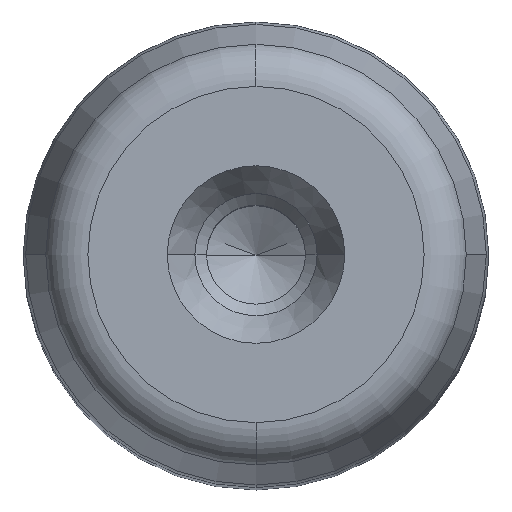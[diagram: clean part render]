
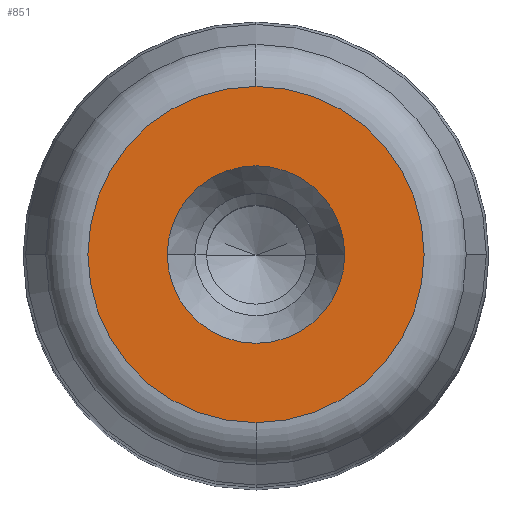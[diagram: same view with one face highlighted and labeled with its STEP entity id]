
A CAD part, top view. The second image highlights one B-rep face of the part: STEP entity #851.
In plain terms, the highlighted planar face has unit normal (0, 0, 1) as drawn and (0, 1, 0) by its records, which use the part's own axes.
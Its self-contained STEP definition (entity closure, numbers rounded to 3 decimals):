
#281=CARTESIAN_POINT('',(6.1,110.0,0.0));
#282=VERTEX_POINT('',#281);
#289=CARTESIAN_POINT('',(-6.1,110.0,0.));
#290=VERTEX_POINT('',#289);
#291=CARTESIAN_POINT('',(0.0,110.0,0.0));
#292=DIRECTION('',(0.0,1.0,0.0));
#293=DIRECTION('',(1.0,0.0,0.0));
#294=AXIS2_PLACEMENT_3D('',#291,#292,#293);
#295=CIRCLE('',#294,6.1);
#296=EDGE_CURVE('',#282,#290,#295,.T.);
#313=CARTESIAN_POINT('',(0.0,110.0,11.554));
#314=VERTEX_POINT('',#313);
#324=CARTESIAN_POINT('',(0.,110.0,-11.554));
#325=VERTEX_POINT('',#324);
#326=CARTESIAN_POINT('',(0.0,110.0,0.0));
#327=DIRECTION('',(0.0,1.0,0.0));
#328=DIRECTION('',(1.0,0.0,0.0));
#329=AXIS2_PLACEMENT_3D('',#326,#327,#328);
#330=CIRCLE('',#329,11.554);
#331=EDGE_CURVE('',#325,#314,#330,.T.);
#812=CARTESIAN_POINT('',(11.554,110.0,0.0));
#813=VERTEX_POINT('',#812);
#814=CARTESIAN_POINT('',(0.0,110.0,0.0));
#815=DIRECTION('',(0.0,1.0,0.0));
#816=DIRECTION('',(1.0,0.0,0.0));
#817=AXIS2_PLACEMENT_3D('',#814,#815,#816);
#818=CIRCLE('',#817,11.554);
#819=EDGE_CURVE('',#813,#325,#818,.T.);
#821=CARTESIAN_POINT('',(0.0,110.0,0.0));
#822=DIRECTION('',(0.0,1.0,0.0));
#823=DIRECTION('',(1.0,0.0,0.0));
#824=AXIS2_PLACEMENT_3D('',#821,#822,#823);
#825=CIRCLE('',#824,11.554);
#826=EDGE_CURVE('',#314,#813,#825,.T.);
#831=CARTESIAN_POINT('',(-12.71,110.0,-12.71));
#832=DIRECTION('',(0.0,1.0,0.0));
#833=DIRECTION('',(0.0,0.0,1.0));
#834=AXIS2_PLACEMENT_3D('',#831,#832,#833);
#835=PLANE('',#834);
#836=ORIENTED_EDGE('',*,*,#819,.T.);
#837=ORIENTED_EDGE('',*,*,#331,.T.);
#838=ORIENTED_EDGE('',*,*,#826,.T.);
#839=EDGE_LOOP('',(#836,#837,#838));
#840=FACE_OUTER_BOUND('',#839,.T.);
#841=ORIENTED_EDGE('',*,*,#296,.F.);
#842=CARTESIAN_POINT('',(0.0,110.0,0.0));
#843=DIRECTION('',(0.0,1.0,0.0));
#844=DIRECTION('',(1.0,0.0,0.0));
#845=AXIS2_PLACEMENT_3D('',#842,#843,#844);
#846=CIRCLE('',#845,6.1);
#847=EDGE_CURVE('',#290,#282,#846,.T.);
#848=ORIENTED_EDGE('',*,*,#847,.F.);
#849=EDGE_LOOP('',(#841,#848));
#850=FACE_BOUND('',#849,.T.);
#851=ADVANCED_FACE('',(#840,#850),#835,.T.);
